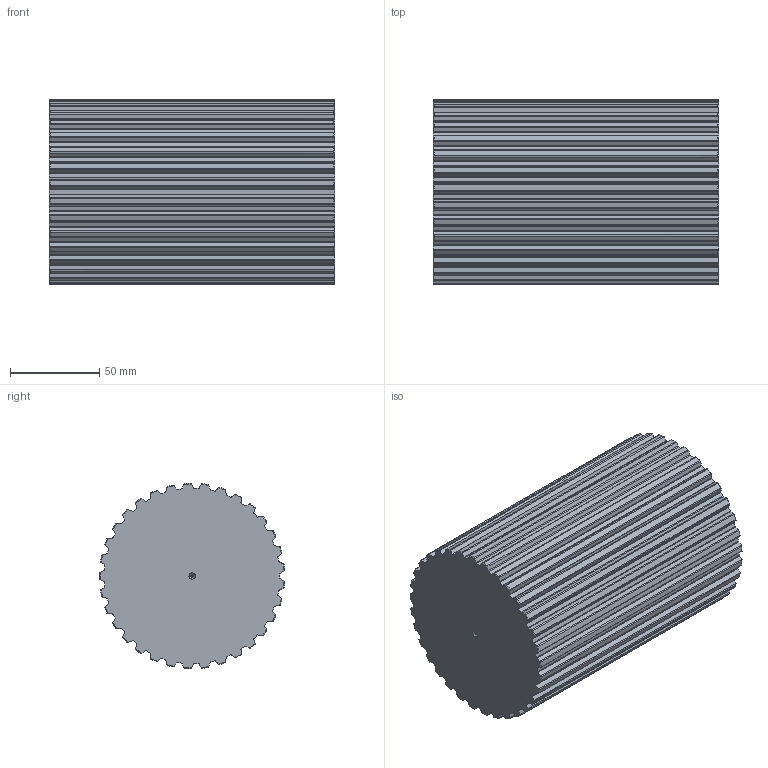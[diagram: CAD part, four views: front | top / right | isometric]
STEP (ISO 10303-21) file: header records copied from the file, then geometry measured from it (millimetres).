
FILE_DESCRIPTION(('STEP AP203'),'1');
FILE_NAME('barat_33.stp','2022-04-12T09:13:01',('TraceParts'),('TraceParts S.A.'),'Spatial InterOp 3D',' ',' ');
FILE_SCHEMA(('CONFIG_CONTROL_DESIGN'));
Length unit declared in the file: millimetre
Products named in the file (1): 1
Bounding box: 160 x 103.93 x 104.02 mm (x, y, z)
Volume: 1291495 mm3; surface area: 83570.3 mm2
Topology: 1 solids, 1 shells, 346 faces, 1024 edges, 678 vertices
Faces by surface type: cylinder 202, cone 76, plane 68
Entity records: 12194 total; most frequent: CARTESIAN_POINT 3233, ORIENTED_EDGE 2040, DIRECTION 1796, EDGE_CURVE 1020, AXIS2_PLACEMENT_3D 693, VERTEX_POINT 678, LINE 410, VECTOR 410
